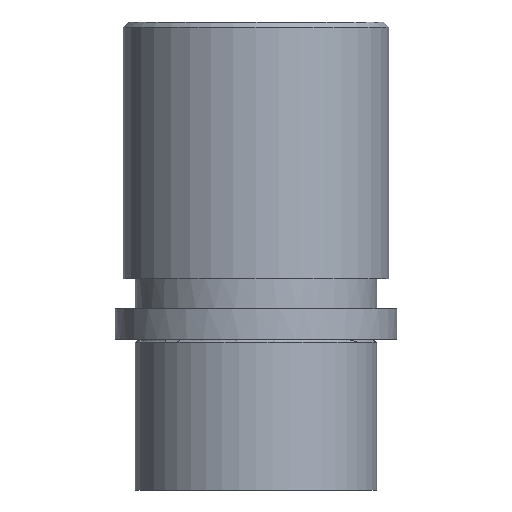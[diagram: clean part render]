
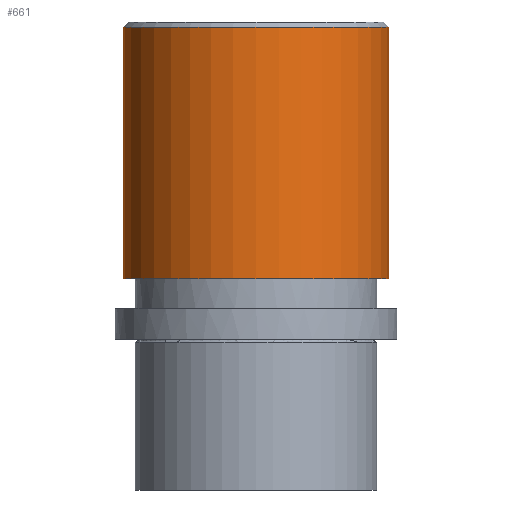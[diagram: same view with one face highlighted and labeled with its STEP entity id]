
A CAD part, front view. The second image highlights one B-rep face of the part: STEP entity #661.
In plain terms, the highlighted cylindrical face has radius 26.4 mm (diameter 52.8 mm), a partial arc.
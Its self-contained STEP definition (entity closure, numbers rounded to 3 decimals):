
#505=CARTESIAN_POINT('Vertex',(-26.4,0.,62.)) ;
#512=CARTESIAN_POINT('Vertex',(26.4,0.,62.)) ;
#532=CARTESIAN_POINT('Axis2P3D Location',(0.,0.,62.)) ;
#619=CARTESIAN_POINT('Line Origine',(-26.4,0.,63.)) ;
#623=CARTESIAN_POINT('Vertex',(-26.4,0.,12.)) ;
#626=CARTESIAN_POINT('Line Origine',(26.4,0.,63.)) ;
#630=CARTESIAN_POINT('Vertex',(26.4,0.,12.)) ;
#645=CARTESIAN_POINT('Axis2P3D Location',(0.,0.,63.)) ;
#650=CARTESIAN_POINT('Axis2P3D Location',(0.,0.,12.)) ;
#533=DIRECTION('Axis2P3D Direction',(0.,0.,-1.)) ;
#620=DIRECTION('Vector Direction',(0.,0.,-1.)) ;
#627=DIRECTION('Vector Direction',(0.,0.,-1.)) ;
#646=DIRECTION('Axis2P3D Direction',(0.,0.,-1.)) ;
#647=DIRECTION('Axis2P3D XDirection',(1.,0.,0.)) ;
#651=DIRECTION('Axis2P3D Direction',(0.,0.,-1.)) ;
#534=AXIS2_PLACEMENT_3D('Circle Axis2P3D',#532,#533,$) ;
#648=AXIS2_PLACEMENT_3D('Cylinder Axis2P3D',#645,#646,#647) ;
#652=AXIS2_PLACEMENT_3D('Circle Axis2P3D',#650,#651,$) ;
#656=ORIENTED_EDGE('',*,*,#632,.T.) ;
#657=ORIENTED_EDGE('',*,*,#536,.F.) ;
#658=ORIENTED_EDGE('',*,*,#625,.T.) ;
#659=ORIENTED_EDGE('',*,*,#654,.T.) ;
#621=VECTOR('Line Direction',#620,1.) ;
#628=VECTOR('Line Direction',#627,1.) ;
#661=ADVANCED_FACE('733-32',(#660),#649,.T.) ;
#535=CIRCLE('generated circle',#534,26.4) ;
#653=CIRCLE('generated circle',#652,26.4) ;
#649=CYLINDRICAL_SURFACE('generated cylinder',#648,26.4) ;
#536=EDGE_CURVE('',#506,#513,#535,.F.) ;
#625=EDGE_CURVE('',#506,#624,#622,.T.) ;
#632=EDGE_CURVE('',#631,#513,#629,.F.) ;
#654=EDGE_CURVE('',#624,#631,#653,.F.) ;
#655=EDGE_LOOP('',(#656,#657,#658,#659)) ;
#660=FACE_OUTER_BOUND('',#655,.T.) ;
#622=LINE('Line',#619,#621) ;
#629=LINE('Line',#626,#628) ;
#506=VERTEX_POINT('',#505) ;
#513=VERTEX_POINT('',#512) ;
#624=VERTEX_POINT('',#623) ;
#631=VERTEX_POINT('',#630) ;
